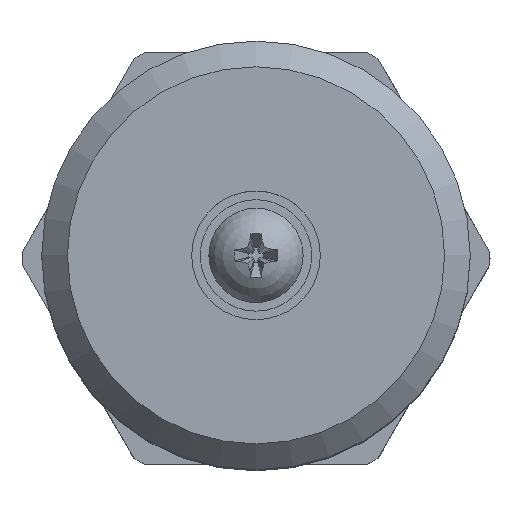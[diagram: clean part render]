
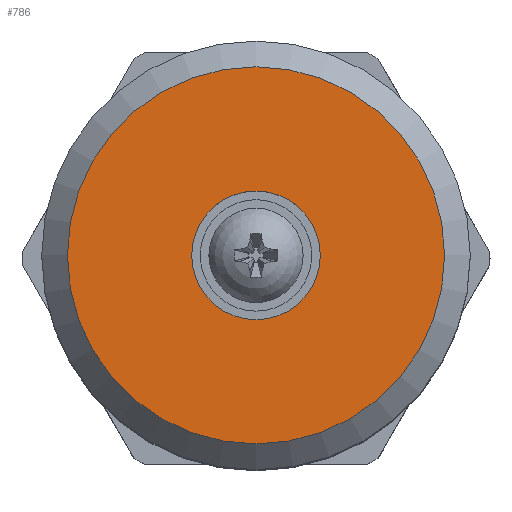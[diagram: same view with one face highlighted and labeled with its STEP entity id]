
A CAD part, top view. The second image highlights one B-rep face of the part: STEP entity #786.
In plain terms, the highlighted planar face has unit normal (0, 0, 1) as drawn and (0, 1, 0) by its records, which use the part's own axes.
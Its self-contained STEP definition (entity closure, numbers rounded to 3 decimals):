
#786=ADVANCED_FACE('',(#1546,#1548),#1550,.T.);
#1546=FACE_BOUND('',#1547,.T.);
#1547=EDGE_LOOP('',(#1981));
#1548=FACE_BOUND('',#1549,.T.);
#1549=EDGE_LOOP('',(#1982));
#1550=PLANE('',#1551);
#1551=AXIS2_PLACEMENT_3D('',#1552,#1553,#1554);
#1552=CARTESIAN_POINT('',(0.,5.,0.));
#1553=DIRECTION('',(0.,1.,0.));
#1554=DIRECTION('',(-1.,0.,0.));
#1981=ORIENTED_EDGE('',*,*,#2207,.T.);
#1982=ORIENTED_EDGE('',*,*,#2208,.T.);
#2207=EDGE_CURVE('',#2418,#2418,#2419,.T.);
#2208=EDGE_CURVE('',#2420,#2420,#2421,.F.);
#2418=VERTEX_POINT('',#3158);
#2419=CIRCLE('',#3159,11.);
#2420=VERTEX_POINT('',#3163);
#2421=CIRCLE('',#3164,3.75);
#3158=CARTESIAN_POINT('',(-11.,5.,0.));
#3159=AXIS2_PLACEMENT_3D('',#3160,#3161,#3162);
#3160=CARTESIAN_POINT('',(0.,5.,0.));
#3161=DIRECTION('',(0.,1.,0.));
#3162=DIRECTION('',(-1.,0.,0.));
#3163=CARTESIAN_POINT('',(0.,5.,3.75));
#3164=AXIS2_PLACEMENT_3D('',#3165,#3166,#3167);
#3165=CARTESIAN_POINT('',(0.,5.,0.));
#3166=DIRECTION('',(0.,1.,0.));
#3167=DIRECTION('',(0.,0.,1.));
